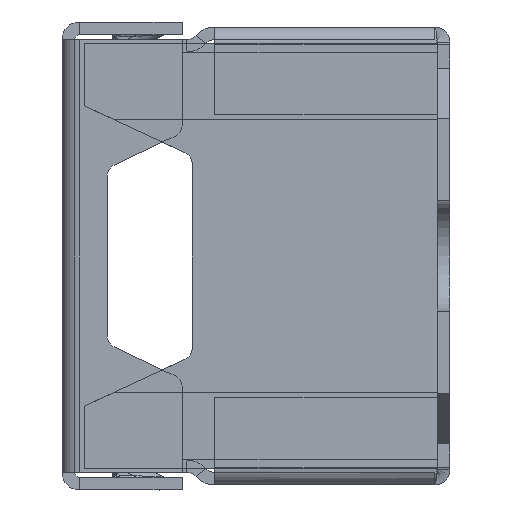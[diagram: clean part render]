
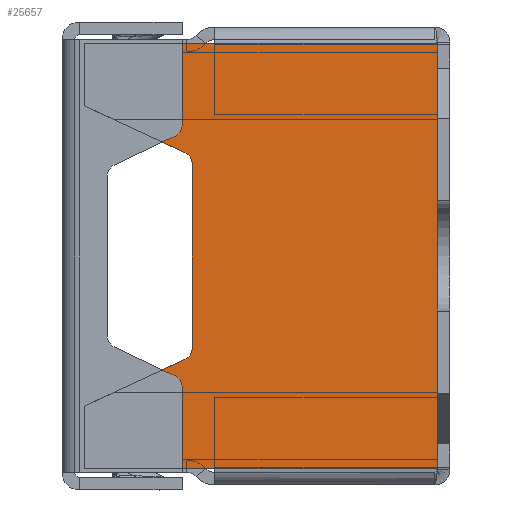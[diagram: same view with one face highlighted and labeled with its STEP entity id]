
A CAD part, left-side view. The second image highlights one B-rep face of the part: STEP entity #25657.
In plain terms, the highlighted planar face has unit normal (-1, 0, 0) as drawn and (0, 0, 1) by its records, which use the part's own axes.
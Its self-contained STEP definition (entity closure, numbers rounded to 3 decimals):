
#25122=CARTESIAN_POINT('',(-3.681,3.25,2.1));
#25123=DIRECTION('',(0.,0.,-1.));
#25124=DIRECTION('',(0.,-1.,0.));
#25125=AXIS2_PLACEMENT_3D('',#25122,#25123,#25124);
#25140=CARTESIAN_POINT('',(3.681,3.25,2.1));
#25141=DIRECTION('',(0.,0.,-1.));
#25142=DIRECTION('',(0.907,-0.422,0.));
#25143=AXIS2_PLACEMENT_3D('',#25140,#25141,#25142);
#25182=DIRECTION('',(1.,0.,0.));
#25183=VECTOR('',#25182,7.362);
#25184=CARTESIAN_POINT('',(-3.681,2.75,2.1));
#25185=LINE('',#25184,#25183);
#25186=DIRECTION('',(0.422,0.907,0.));
#25187=VECTOR('',#25186,4.423);
#25188=CARTESIAN_POINT('',(4.134,3.039,2.1));
#25189=LINE('',#25188,#25187);
#25190=DIRECTION('',(-1.,0.,0.));
#25191=VECTOR('',#25190,2.5);
#25192=CARTESIAN_POINT('',(8.5,7.05,2.1));
#25193=LINE('',#25192,#25191);
#25194=DIRECTION('',(0.,1.,0.));
#25195=VECTOR('',#25194,14.1);
#25196=CARTESIAN_POINT('',(8.5,-7.05,2.1));
#25197=LINE('',#25196,#25195);
#25198=DIRECTION('',(1.,0.,0.));
#25199=VECTOR('',#25198,17.);
#25200=CARTESIAN_POINT('',(-8.5,-7.05,2.1));
#25201=LINE('',#25200,#25199);
#25202=DIRECTION('',(0.,-1.,0.));
#25203=VECTOR('',#25202,14.1);
#25204=CARTESIAN_POINT('',(-8.5,7.05,2.1));
#25205=LINE('',#25204,#25203);
#25206=DIRECTION('',(-1.,0.,0.));
#25207=VECTOR('',#25206,2.5);
#25208=CARTESIAN_POINT('',(-6.,7.05,2.1));
#25209=LINE('',#25208,#25207);
#25210=DIRECTION('',(0.422,-0.907,0.));
#25211=VECTOR('',#25210,4.423);
#25212=CARTESIAN_POINT('',(-6.,7.05,2.1));
#25213=LINE('',#25212,#25211);
#25372=CARTESIAN_POINT('',(-8.5,7.05,2.1));
#25373=CARTESIAN_POINT('',(-8.5,-7.05,2.1));
#25374=VERTEX_POINT('',#25372);
#25375=VERTEX_POINT('',#25373);
#25376=CARTESIAN_POINT('',(8.5,-7.05,2.1));
#25377=VERTEX_POINT('',#25376);
#25378=CARTESIAN_POINT('',(8.5,7.05,2.1));
#25379=VERTEX_POINT('',#25378);
#25384=CARTESIAN_POINT('',(6.,7.05,2.1));
#25385=VERTEX_POINT('',#25384);
#25386=CARTESIAN_POINT('',(-6.,7.05,2.1));
#25387=VERTEX_POINT('',#25386);
#25388=CARTESIAN_POINT('',(-3.681,2.75,2.1));
#25390=VERTEX_POINT('',#25388);
#25392=CARTESIAN_POINT('',(-4.134,3.039,2.1));
#25394=VERTEX_POINT('',#25392);
#25396=CARTESIAN_POINT('',(4.134,3.039,2.1));
#25398=VERTEX_POINT('',#25396);
#25400=CARTESIAN_POINT('',(3.681,2.75,2.1));
#25402=VERTEX_POINT('',#25400);
#25637=CARTESIAN_POINT('',(0.,0.,2.1));
#25638=DIRECTION('',(0.,0.,1.));
#25639=DIRECTION('',(1.,0.,0.));
#25640=AXIS2_PLACEMENT_3D('',#25637,#25638,#25639);
#25641=PLANE('',#25640);
#25642=ORIENTED_EDGE('',*,*,#25524,.T.);
#25643=ORIENTED_EDGE('',*,*,#25536,.F.);
#25644=ORIENTED_EDGE('',*,*,#25558,.T.);
#25645=ORIENTED_EDGE('',*,*,#25584,.F.);
#25647=ORIENTED_EDGE('',*,*,#25646,.F.);
#25649=ORIENTED_EDGE('',*,*,#25648,.F.);
#25651=ORIENTED_EDGE('',*,*,#25650,.F.);
#25652=ORIENTED_EDGE('',*,*,#25599,.F.);
#25653=ORIENTED_EDGE('',*,*,#25488,.T.);
#25654=ORIENTED_EDGE('',*,*,#25508,.F.);
#25655=EDGE_LOOP('',(#25642,#25643,#25644,#25645,#25647,#25649,#25651,#25652,
#25653,#25654));
#25656=FACE_OUTER_BOUND('',#25655,.F.);
#25657=ADVANCED_FACE('',(#25656),#25641,.T.);
#25126=CIRCLE('',#25125,0.5);
#25144=CIRCLE('',#25143,0.5);
#25488=EDGE_CURVE('',#25387,#25394,#25213,.T.);
#25508=EDGE_CURVE('',#25390,#25394,#25126,.T.);
#25524=EDGE_CURVE('',#25390,#25402,#25185,.T.);
#25536=EDGE_CURVE('',#25398,#25402,#25144,.T.);
#25558=EDGE_CURVE('',#25398,#25385,#25189,.T.);
#25584=EDGE_CURVE('',#25379,#25385,#25193,.T.);
#25599=EDGE_CURVE('',#25387,#25374,#25209,.T.);
#25646=EDGE_CURVE('',#25377,#25379,#25197,.T.);
#25648=EDGE_CURVE('',#25375,#25377,#25201,.T.);
#25650=EDGE_CURVE('',#25374,#25375,#25205,.T.);
